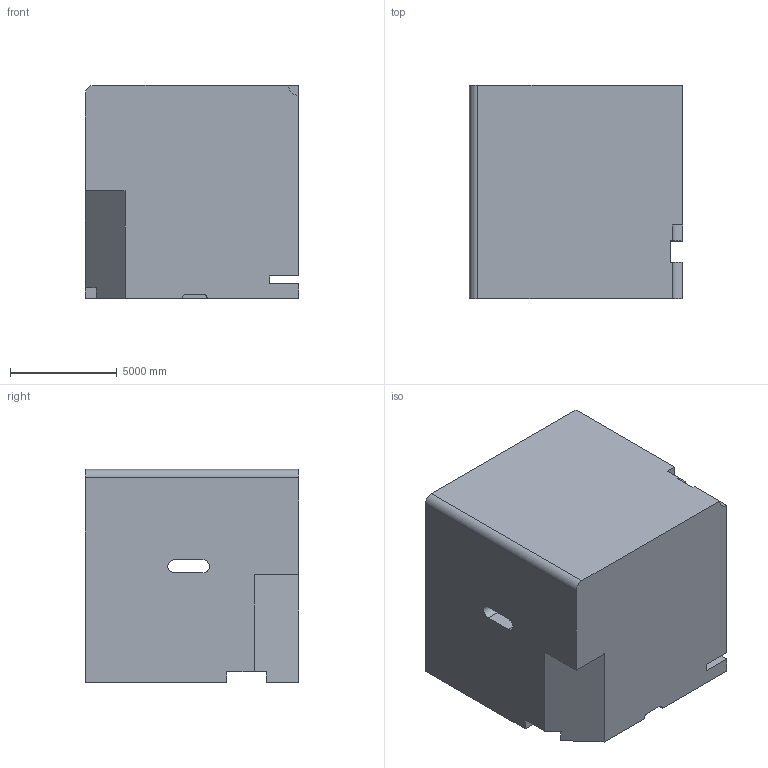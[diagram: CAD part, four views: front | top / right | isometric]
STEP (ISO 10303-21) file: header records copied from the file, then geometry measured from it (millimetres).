
FILE_DESCRIPTION (( 'STEP AP203' ), '1' );
FILE_NAME ('86.STEP', '2022-09-02T14:08:10', ( 'user' ), ( '' ), 'SwSTEP 2.0', 'SolidWorks 2021', '' );
FILE_SCHEMA (( 'CONFIG_CONTROL_DESIGN' ));
Length unit declared in the file: centimetre
Products named in the file (1): 86
Bounding box: 10000 x 10000 x 10000 mm (x, y, z)
Volume: 954979323601.8 mm3; surface area: 674710541.4 mm2
Topology: 1 solids, 1 shells, 46 faces, 132 edges, 88 vertices
Faces by surface type: plane 35, cylinder 11
Entity records: 1582 total; most frequent: CARTESIAN_POINT 267, ORIENTED_EDGE 264, DIRECTION 251, EDGE_CURVE 132, LINE 107, VECTOR 107, VERTEX_POINT 88, AXIS2_PLACEMENT_3D 72
